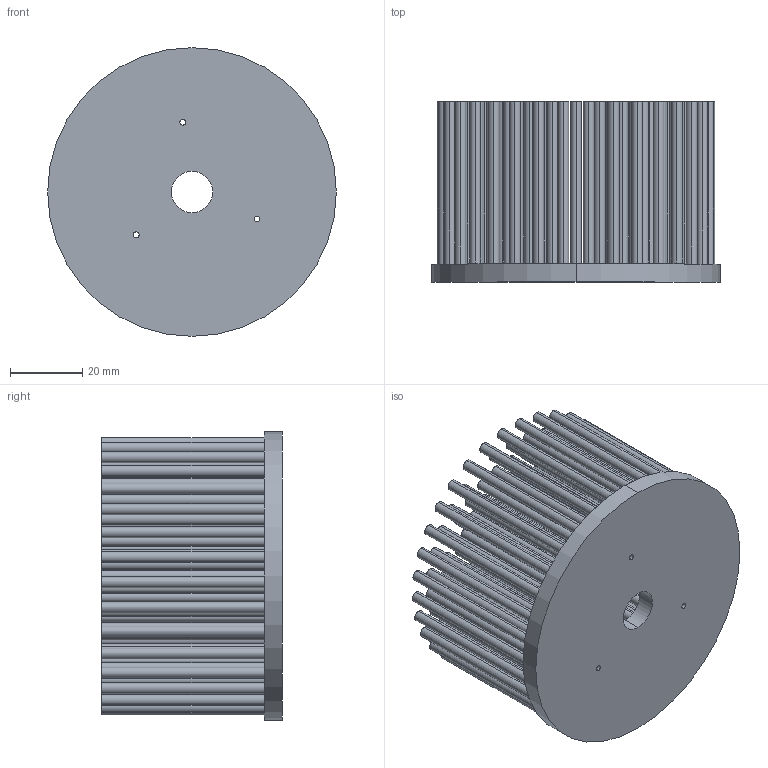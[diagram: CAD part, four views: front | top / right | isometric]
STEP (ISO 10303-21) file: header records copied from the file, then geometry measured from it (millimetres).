
FILE_DESCRIPTION (( 'STEP AP203' ), '1' );
FILE_NAME ('XSA-67-M2 (O80mm X 50mm).STEP', '2012-06-27T08:58:46', ( 'Your User Name' ), ( 'Your Company Name' ), 'SwSTEP 2.0', 'SolidWorks 2011', '' );
FILE_SCHEMA (( 'CONFIG_CONTROL_DESIGN' ));
Length unit declared in the file: millimetre
Products named in the file (1): XSA-67-M2 (O80mm X 50mm)
Bounding box: 80 x 50 x 80 mm (x, y, z)
Volume: 70564.4 mm3; surface area: 72654.2 mm2
Topology: 1 solids, 1 shells, 447 faces, 900 edges, 600 vertices
Faces by surface type: cylinder 300, plane 147
Entity records: 12067 total; most frequent: DIRECTION 2396, CARTESIAN_POINT 1948, ORIENTED_EDGE 1800, AXIS2_PLACEMENT_3D 1048, EDGE_CURVE 900, CIRCLE 600, EDGE_LOOP 600, VERTEX_POINT 600
